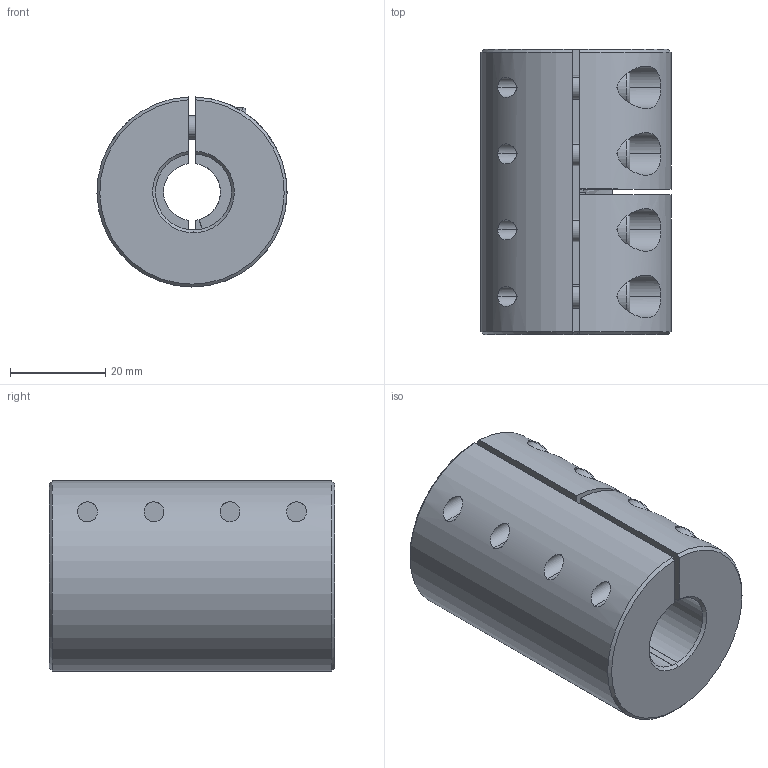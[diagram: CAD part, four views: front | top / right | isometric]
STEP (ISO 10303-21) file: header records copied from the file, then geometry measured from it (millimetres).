
FILE_DESCRIPTION (( 'STEP AP214' ), '1' );
FILE_NAME ('LL-B-D40L60-12-16½¨Ä£.STEP', '2022-07-22T00:59:05', ( '' ), ( '' ), 'SwSTEP 2.0', 'SolidWorks 2022', '' );
FILE_SCHEMA (( 'AUTOMOTIVE_DESIGN' ));
Length unit declared in the file: millimetre
Products named in the file (1): LL-B-D40L60-12-16膘耀
Bounding box: 40 x 60 x 39.99 mm (x, y, z)
Volume: 62657.7 mm3; surface area: 17307.2 mm2
Topology: 1 solids, 1 shells, 182 faces, 463 edges, 291 vertices
Faces by surface type: plane 88, cylinder 71, cone 15, torus 8
Entity records: 6017 total; most frequent: CARTESIAN_POINT 1531, DIRECTION 969, ORIENTED_EDGE 910, EDGE_CURVE 455, AXIS2_PLACEMENT_3D 377, VERTEX_POINT 291, LINE 215, VECTOR 215
